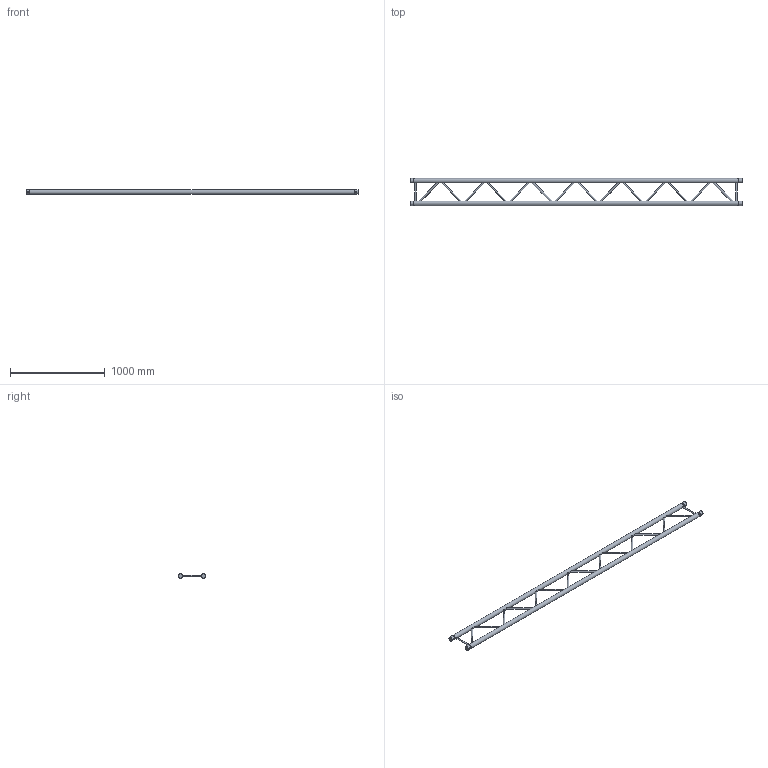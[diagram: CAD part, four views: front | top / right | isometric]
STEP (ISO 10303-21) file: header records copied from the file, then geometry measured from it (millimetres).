
FILE_DESCRIPTION(/* description */ (''),/* implementation_level */ '2;1');
FILE_NAME(/* name */ 'C:\Users\stephan\Desktop\Nieuwe map\H30L\111050054.stp',/* time_stamp */ '2016-09-12T12:00:05+02:00',/* author */ ('Stephan'),/* organization */ (''),/* preprocessor_version */ 'ST-DEVELOPER v15.6',/* originating_system */ 'Autodesk Inventor 2015',/* authorisation */ '');
FILE_SCHEMA (('AUTOMOTIVE_DESIGN { 1 0 10303 214 3 1 1 }'));
Length unit declared in the file: millimetre
Products named in the file (1): 160026974
Bounding box: 3500 x 287.3 x 48.3 mm (x, y, z)
Volume: 4085175.6 mm3; surface area: 2213773.3 mm2
Topology: 18 solids, 20 shells, 144 faces, 264 edges, 164 vertices
Faces by surface type: plane 80, cylinder 60, cone 4
Full cylindrical faces by diameter (mm): 10 x4, 16 x16, 41.8 x4, 42.3 x2, 48.3 x6
Entity records: 3814 total; most frequent: CARTESIAN_POINT 1065, DIRECTION 478, ORIENTED_EDGE 456, EDGE_CURVE 224, AXIS2_PLACEMENT_3D 209, EDGE_LOOP 200, VERTEX_POINT 164, STYLED_ITEM 117
